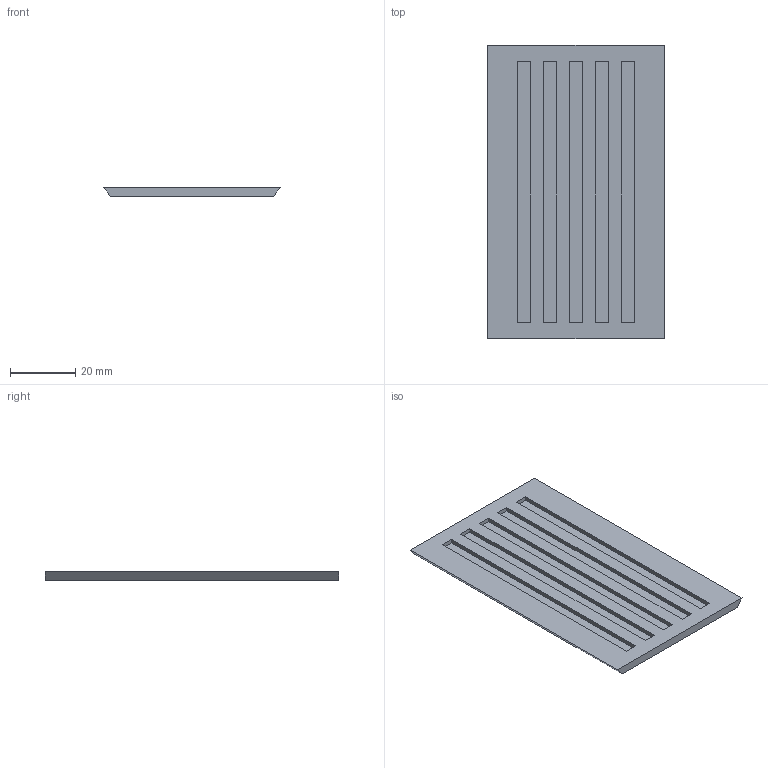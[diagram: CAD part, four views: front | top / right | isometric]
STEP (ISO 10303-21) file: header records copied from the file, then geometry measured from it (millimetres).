
FILE_DESCRIPTION(('Open CASCADE Model'),'2;1');
FILE_NAME('Open CASCADE Shape Model','2026-11-01T05:34:10',('Author'),( 'Open CASCADE'),'Open CASCADE STEP processor 7.8','Open CASCADE 7.8' ,'Unknown');
FILE_SCHEMA(('AUTOMOTIVE_DESIGN { 1 0 10303 214 1 1 1 1 }'));
Length unit declared in the file: millimetre
Products named in the file (1): Open CASCADE STEP translator 7.8 29
Bounding box: 54 x 90 x 2.5 mm (x, y, z)
Volume: 9620 mm3; surface area: 11288.3 mm2
Topology: 1 solids, 1 shells, 31 faces, 72 edges, 48 vertices
Faces by surface type: plane 31
Entity records: 1812 total; most frequent: CARTESIAN_POINT 296, DIRECTION 280, LINE 216, VECTOR 216, ORIENTED_EDGE 144, PCURVE 144, DEFINITIONAL_REPRESENTATION 144, EDGE_CURVE 72
